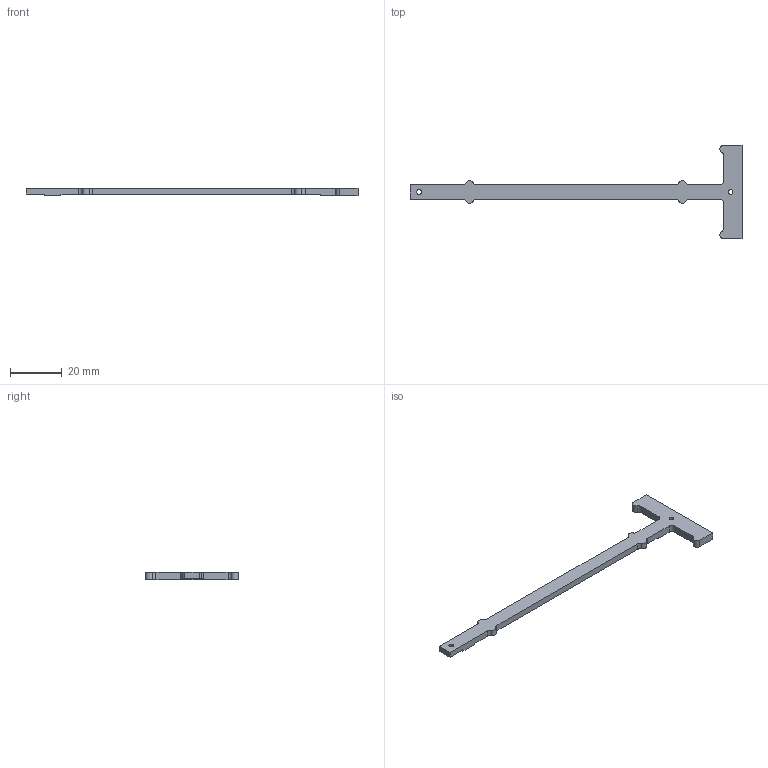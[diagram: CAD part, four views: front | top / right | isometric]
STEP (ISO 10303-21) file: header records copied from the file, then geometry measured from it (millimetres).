
FILE_DESCRIPTION(('CATIA V5 STEP Exchange'),'2;1');
FILE_NAME('D:\CATIA\ATLAS\Atlas_Maarten\atlas_upgrade_maarten\Ass.Module\STP\Positionneur_Hybride.stp','2010-09-02T14:39:43+00:00',('none'),('none'),'CATIA Version 5 Release 18 SP 4 (IN-10)','CATIA V5 STEP AP203','none');
FILE_SCHEMA(('CONFIG_CONTROL_DESIGN'));
Length unit declared in the file: millimetre
Products named in the file (1): Positionneur_Hybride
Bounding box: 128 x 36 x 3 mm (x, y, z)
Volume: 2579.4 mm3; surface area: 2876.9 mm2
Topology: 1 solids, 1 shells, 46 faces, 132 edges, 88 vertices
Faces by surface type: plane 23, cylinder 23
Entity records: 1481 total; most frequent: ORIENTED_EDGE 264, CARTESIAN_POINT 258, DIRECTION 206, EDGE_CURVE 132, VERTEX_POINT 88, VECTOR 86, LINE 86, AXIS2_PLACEMENT_3D 84
